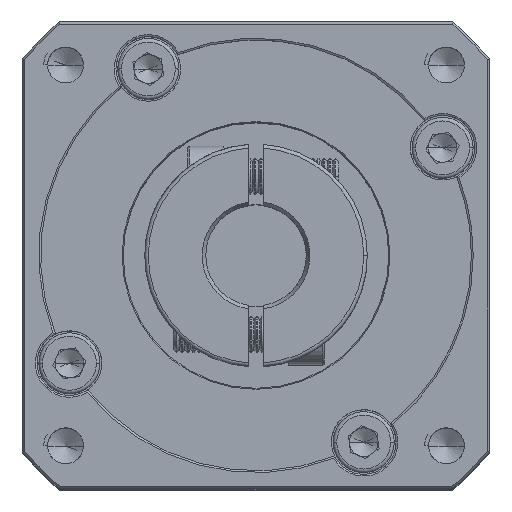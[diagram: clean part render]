
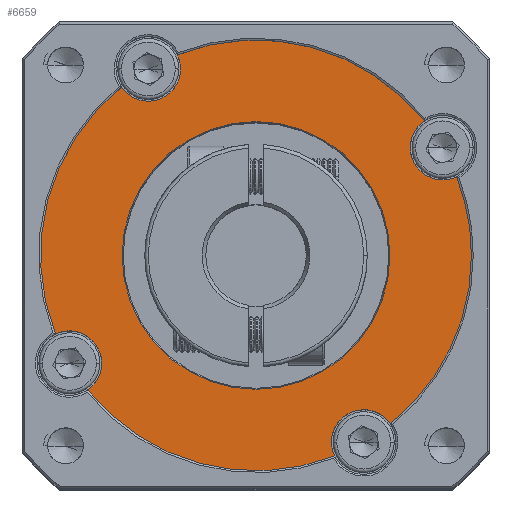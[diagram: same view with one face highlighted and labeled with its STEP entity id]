
A CAD part, top view. The second image highlights one B-rep face of the part: STEP entity #6659.
In plain terms, the highlighted planar face has unit normal (0, 0, 1).
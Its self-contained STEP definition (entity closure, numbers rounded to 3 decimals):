
#388 = CARTESIAN_POINT ( 'NONE',  ( -67.372, 29.687, 14.19 ) ) ;
#737 = CIRCLE ( 'NONE', #50648, 30. ) ;
#2365 = DIRECTION ( 'NONE',  ( 1., 0., 0. ) ) ;
#2503 = CARTESIAN_POINT ( 'NONE',  ( -48.728, 29.687, 14.19 ) ) ;
#4995 = CARTESIAN_POINT ( 'NONE',  ( -48.728, 29.687, 14.19 ) ) ;
#5083 = DIRECTION ( 'NONE',  ( 1., 0., 0. ) ) ;
#5391 = VERTEX_POINT ( 'NONE', #62906 ) ;
#6002 = EDGE_CURVE ( 'NONE', #5391, #56636, #57514, .T. ) ;
#6455 = CARTESIAN_POINT ( 'NONE',  ( -22.747, 44.687, 14.19 ) ) ;
#6659 = ADVANCED_FACE ( 'NONE', ( #15009, #76066 ), #37351, .T. ) ;
#7126 = CARTESIAN_POINT ( 'NONE',  ( -20.796, 40.632, 14.19 ) ) ;
#7574 = ORIENTED_EDGE ( 'NONE', *, *, #24536, .F. ) ;
#7688 = DIRECTION ( 'NONE',  ( 1., 0., 0. ) ) ;
#7768 = AXIS2_PLACEMENT_3D ( 'NONE', #100466, #52800, #5083 ) ;
#10015 = CARTESIAN_POINT ( 'NONE',  ( -37.783, 1.755, 14.19 ) ) ;
#10152 = VERTEX_POINT ( 'NONE', #73604 ) ;
#10548 = DIRECTION ( 'NONE',  ( 1., 0., 0. ) ) ;
#11843 = ORIENTED_EDGE ( 'NONE', *, *, #83575, .T. ) ;
#12475 = CARTESIAN_POINT ( 'NONE',  ( -48.728, 29.687, 14.19 ) ) ;
#13005 = DIRECTION ( 'NONE',  ( 1., 0., 0. ) ) ;
#13374 = ORIENTED_EDGE ( 'NONE', *, *, #6002, .T. ) ;
#14433 = DIRECTION ( 'NONE',  ( 1., 0., 0. ) ) ;
#15009 = FACE_BOUND ( 'NONE', #66333, .T. ) ;
#15957 = ORIENTED_EDGE ( 'NONE', *, *, #37797, .F. ) ;
#17892 = CIRCLE ( 'NONE', #20911, 30. ) ;
#17952 = EDGE_CURVE ( 'NONE', #59429, #56636, #31859, .T. ) ;
#18242 = EDGE_CURVE ( 'NONE', #94183, #90052, #45553, .T. ) ;
#18683 = DIRECTION ( 'NONE',  ( 0., 0., 1. ) ) ;
#20164 = CIRCLE ( 'NONE', #41290, 4.5 ) ;
#20446 = DIRECTION ( 'NONE',  ( 1., 0., 0. ) ) ;
#20774 = CARTESIAN_POINT ( 'NONE',  ( -48.728, 29.687, 14.19 ) ) ;
#20911 = AXIS2_PLACEMENT_3D ( 'NONE', #2503, #58248, #10548 ) ;
#21479 = AXIS2_PLACEMENT_3D ( 'NONE', #85730, #38022, #93766 ) ;
#22542 = ORIENTED_EDGE ( 'NONE', *, *, #103212, .F. ) ;
#22553 = ORIENTED_EDGE ( 'NONE', *, *, #47969, .T. ) ;
#23794 = EDGE_CURVE ( 'NONE', #75187, #53518, #54109, .T. ) ;
#24536 = EDGE_CURVE ( 'NONE', #35405, #90052, #20164, .T. ) ;
#24736 = CIRCLE ( 'NONE', #39006, 4.5 ) ;
#25224 = EDGE_CURVE ( 'NONE', #53518, #75187, #72369, .T. ) ;
#26265 = CARTESIAN_POINT ( 'NONE',  ( -48.728, 29.687, 14.19 ) ) ;
#26823 = ORIENTED_EDGE ( 'NONE', *, *, #35573, .F. ) ;
#26870 = EDGE_CURVE ( 'NONE', #77039, #37824, #61814, .T. ) ;
#27382 = CIRCLE ( 'NONE', #7768, 4.5 ) ;
#28583 = CIRCLE ( 'NONE', #21479, 4.5 ) ;
#28762 = DIRECTION ( 'NONE',  ( 1., 0., 0. ) ) ;
#29497 = AXIS2_PLACEMENT_3D ( 'NONE', #91203, #43482, #99248 ) ;
#31859 = CIRCLE ( 'NONE', #79911, 4.5 ) ;
#32054 = VERTEX_POINT ( 'NONE', #98486 ) ;
#34273 = DIRECTION ( 'NONE',  ( 1., 0., 0. ) ) ;
#35366 = DIRECTION ( 'NONE',  ( 0., 0., 1. ) ) ;
#35405 = VERTEX_POINT ( 'NONE', #81059 ) ;
#35573 = EDGE_CURVE ( 'NONE', #94183, #59429, #24736, .T. ) ;
#35623 = CIRCLE ( 'NONE', #77628, 4.5 ) ;
#36101 = ORIENTED_EDGE ( 'NONE', *, *, #18242, .T. ) ;
#36353 = DIRECTION ( 'NONE',  ( 0., 0., 1. ) ) ;
#37226 = ORIENTED_EDGE ( 'NONE', *, *, #86282, .F. ) ;
#37338 = ORIENTED_EDGE ( 'NONE', *, *, #26870, .T. ) ;
#37351 = PLANE ( 'NONE',  #75065 ) ;
#37711 = CARTESIAN_POINT ( 'NONE',  ( -48.728, 29.687, 14.19 ) ) ;
#37797 = EDGE_CURVE ( 'NONE', #68984, #37824, #73797, .T. ) ;
#37824 = VERTEX_POINT ( 'NONE', #7126 ) ;
#38022 = DIRECTION ( 'NONE',  ( 0., 0., 1. ) ) ;
#38859 = CARTESIAN_POINT ( 'NONE',  ( -76.66, 18.742, 14.19 ) ) ;
#39006 = AXIS2_PLACEMENT_3D ( 'NONE', #83077, #35366, #91112 ) ;
#40512 = AXIS2_PLACEMENT_3D ( 'NONE', #103043, #55378, #7688 ) ;
#41273 = EDGE_CURVE ( 'NONE', #5391, #32054, #28583, .T. ) ;
#41290 = AXIS2_PLACEMENT_3D ( 'NONE', #84066, #36353, #92113 ) ;
#43306 = AXIS2_PLACEMENT_3D ( 'NONE', #6455, #62181, #14433 ) ;
#43482 = DIRECTION ( 'NONE',  ( 0., 0., 1. ) ) ;
#45553 = CIRCLE ( 'NONE', #49309, 30. ) ;
#45746 = DIRECTION ( 'NONE',  ( 1., 0., 0. ) ) ;
#45783 = CARTESIAN_POINT ( 'NONE',  ( -74.709, 14.687, 14.19 ) ) ;
#47569 = ORIENTED_EDGE ( 'NONE', *, *, #17952, .F. ) ;
#47969 = EDGE_CURVE ( 'NONE', #10152, #101129, #17892, .T. ) ;
#49309 = AXIS2_PLACEMENT_3D ( 'NONE', #12475, #68204, #20446 ) ;
#50072 = DIRECTION ( 'NONE',  ( 0., 0., 1. ) ) ;
#50648 = AXIS2_PLACEMENT_3D ( 'NONE', #4995, #60740, #13005 ) ;
#52800 = DIRECTION ( 'NONE',  ( 0., 0., 1. ) ) ;
#52943 = AXIS2_PLACEMENT_3D ( 'NONE', #66443, #18683, #74449 ) ;
#53518 = VERTEX_POINT ( 'NONE', #388 ) ;
#53780 = DIRECTION ( 'NONE',  ( 1., 0., 0. ) ) ;
#53828 = ORIENTED_EDGE ( 'NONE', *, *, #41273, .F. ) ;
#54109 = CIRCLE ( 'NONE', #40512, 18.644 ) ;
#54214 = EDGE_CURVE ( 'NONE', #32054, #101129, #35623, .T. ) ;
#55378 = DIRECTION ( 'NONE',  ( 0., 0., -1. ) ) ;
#55804 = CARTESIAN_POINT ( 'NONE',  ( -30.01, 6.243, 14.19 ) ) ;
#55948 = ORIENTED_EDGE ( 'NONE', *, *, #23794, .T. ) ;
#56636 = VERTEX_POINT ( 'NONE', #38859 ) ;
#56890 = CARTESIAN_POINT ( 'NONE',  ( -30.083, 29.687, 14.19 ) ) ;
#57514 = CIRCLE ( 'NONE', #67000, 30. ) ;
#57709 = CIRCLE ( 'NONE', #29497, 4.5 ) ;
#58248 = DIRECTION ( 'NONE',  ( 0., 0., 1. ) ) ;
#59429 = VERTEX_POINT ( 'NONE', #84580 ) ;
#60740 = DIRECTION ( 'NONE',  ( 0., 0., 1. ) ) ;
#61814 = CIRCLE ( 'NONE', #52943, 30. ) ;
#62181 = DIRECTION ( 'NONE',  ( 0., 0., 1. ) ) ;
#62751 = VERTEX_POINT ( 'NONE', #55804 ) ;
#62906 = CARTESIAN_POINT ( 'NONE',  ( -67.445, 53.132, 14.19 ) ) ;
#63000 = ORIENTED_EDGE ( 'NONE', *, *, #54214, .F. ) ;
#63838 = EDGE_LOOP ( 'NONE', ( #26823, #36101, #7574, #37226, #11843, #37338, #15957, #22542, #22553, #63000, #53828, #13374, #47569 ) ) ;
#66333 = EDGE_LOOP ( 'NONE', ( #55948, #82487 ) ) ;
#66443 = CARTESIAN_POINT ( 'NONE',  ( -48.728, 29.687, 14.19 ) ) ;
#67000 = AXIS2_PLACEMENT_3D ( 'NONE', #20774, #76530, #28762 ) ;
#68204 = DIRECTION ( 'NONE',  ( 0., 0., 1. ) ) ;
#68984 = VERTEX_POINT ( 'NONE', #74565 ) ;
#72369 = CIRCLE ( 'NONE', #92105, 18.644 ) ;
#73604 = CARTESIAN_POINT ( 'NONE',  ( -25.283, 48.405, 14.19 ) ) ;
#73797 = CIRCLE ( 'NONE', #43306, 4.5 ) ;
#74449 = DIRECTION ( 'NONE',  ( 1., 0., 0. ) ) ;
#74565 = CARTESIAN_POINT ( 'NONE',  ( -27.247, 44.687, 14.19 ) ) ;
#75065 = AXIS2_PLACEMENT_3D ( 'NONE', #37711, #93439, #45746 ) ;
#75187 = VERTEX_POINT ( 'NONE', #56890 ) ;
#76066 = FACE_OUTER_BOUND ( 'NONE', #63838, .T. ) ;
#76530 = DIRECTION ( 'NONE',  ( 0., 0., 1. ) ) ;
#77039 = VERTEX_POINT ( 'NONE', #98182 ) ;
#77628 = AXIS2_PLACEMENT_3D ( 'NONE', #97792, #50072, #2365 ) ;
#79911 = AXIS2_PLACEMENT_3D ( 'NONE', #45783, #101475, #53780 ) ;
#81059 = CARTESIAN_POINT ( 'NONE',  ( -38.228, 3.707, 14.19 ) ) ;
#82002 = DIRECTION ( 'NONE',  ( 0., 0., -1. ) ) ;
#82487 = ORIENTED_EDGE ( 'NONE', *, *, #25224, .T. ) ;
#83077 = CARTESIAN_POINT ( 'NONE',  ( -74.709, 14.687, 14.19 ) ) ;
#83575 = EDGE_CURVE ( 'NONE', #62751, #77039, #737, .T. ) ;
#84066 = CARTESIAN_POINT ( 'NONE',  ( -33.728, 3.707, 14.19 ) ) ;
#84580 = CARTESIAN_POINT ( 'NONE',  ( -70.209, 14.687, 14.19 ) ) ;
#85730 = CARTESIAN_POINT ( 'NONE',  ( -63.728, 55.668, 14.19 ) ) ;
#86282 = EDGE_CURVE ( 'NONE', #62751, #35405, #57709, .T. ) ;
#88118 = CARTESIAN_POINT ( 'NONE',  ( -59.673, 57.62, 14.19 ) ) ;
#90052 = VERTEX_POINT ( 'NONE', #10015 ) ;
#91112 = DIRECTION ( 'NONE',  ( 1., 0., 0. ) ) ;
#91203 = CARTESIAN_POINT ( 'NONE',  ( -33.728, 3.707, 14.19 ) ) ;
#92105 = AXIS2_PLACEMENT_3D ( 'NONE', #26265, #82002, #34273 ) ;
#92113 = DIRECTION ( 'NONE',  ( 1., 0., 0. ) ) ;
#92136 = CARTESIAN_POINT ( 'NONE',  ( -72.173, 10.97, 14.19 ) ) ;
#93439 = DIRECTION ( 'NONE',  ( 0., 0., 1. ) ) ;
#93766 = DIRECTION ( 'NONE',  ( 1., 0., 0. ) ) ;
#94183 = VERTEX_POINT ( 'NONE', #92136 ) ;
#97792 = CARTESIAN_POINT ( 'NONE',  ( -63.728, 55.668, 14.19 ) ) ;
#98182 = CARTESIAN_POINT ( 'NONE',  ( -18.728, 29.687, 14.19 ) ) ;
#98486 = CARTESIAN_POINT ( 'NONE',  ( -59.228, 55.668, 14.19 ) ) ;
#99248 = DIRECTION ( 'NONE',  ( 1., 0., 0. ) ) ;
#100466 = CARTESIAN_POINT ( 'NONE',  ( -22.747, 44.687, 14.19 ) ) ;
#101129 = VERTEX_POINT ( 'NONE', #88118 ) ;
#101475 = DIRECTION ( 'NONE',  ( 0., 0., 1. ) ) ;
#103043 = CARTESIAN_POINT ( 'NONE',  ( -48.728, 29.687, 14.19 ) ) ;
#103212 = EDGE_CURVE ( 'NONE', #10152, #68984, #27382, .T. ) ;
